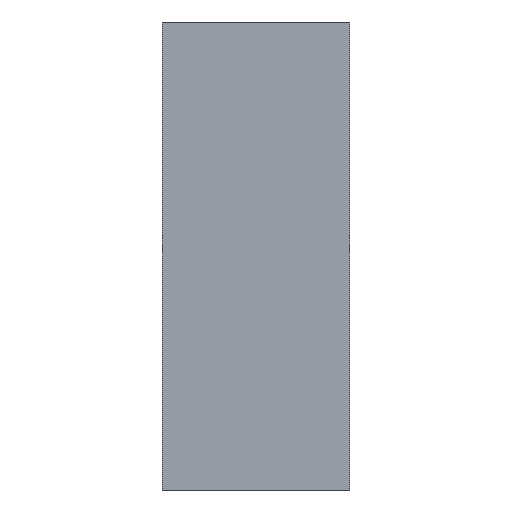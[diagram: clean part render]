
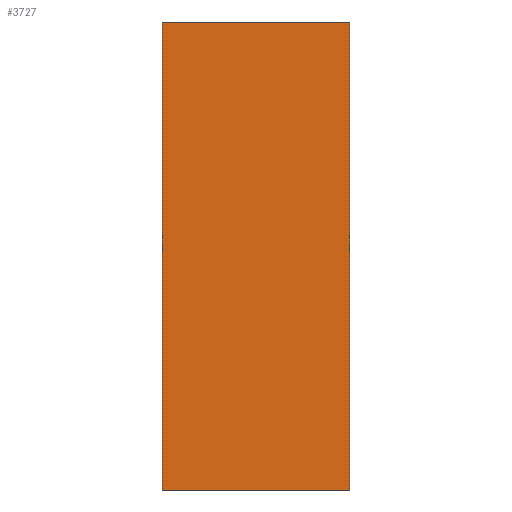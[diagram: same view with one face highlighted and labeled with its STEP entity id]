
A CAD part, left-side view. The second image highlights one B-rep face of the part: STEP entity #3727.
In plain terms, the highlighted planar face has unit normal (-1, 0, 0).
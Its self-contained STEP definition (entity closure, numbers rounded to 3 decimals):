
#448 = DIRECTION ( 'NONE',  ( 0., -1., 0. ) ) ;
#469 = DIRECTION ( 'NONE',  ( 0., 0., 1. ) ) ;
#508 = CARTESIAN_POINT ( 'NONE',  ( -40., -10., -50. ) ) ;
#545 = EDGE_CURVE ( 'NONE', #743, #3840, #904, .T. ) ;
#608 = VECTOR ( 'NONE', #469, 1000. ) ;
#742 = FACE_OUTER_BOUND ( 'NONE', #2347, .T. ) ;
#743 = VERTEX_POINT ( 'NONE', #1219 ) ;
#759 = DIRECTION ( 'NONE',  ( -1., 0., 0. ) ) ;
#810 = DIRECTION ( 'NONE',  ( 0., 0., 1. ) ) ;
#904 = LINE ( 'NONE', #3787, #1710 ) ;
#1038 = EDGE_CURVE ( 'NONE', #3840, #3017, #3023, .T. ) ;
#1080 = CARTESIAN_POINT ( 'NONE',  ( -40., 10., -50. ) ) ;
#1092 = CARTESIAN_POINT ( 'NONE',  ( -40., 10., -50. ) ) ;
#1118 = EDGE_CURVE ( 'NONE', #743, #1184, #2744, .T. ) ;
#1184 = VERTEX_POINT ( 'NONE', #3001 ) ;
#1219 = CARTESIAN_POINT ( 'NONE',  ( -40., 10., -50. ) ) ;
#1308 = ORIENTED_EDGE ( 'NONE', *, *, #545, .T. ) ;
#1342 = PLANE ( 'NONE',  #2146 ) ;
#1386 = DIRECTION ( 'NONE',  ( 0., 0., 1. ) ) ;
#1489 = EDGE_CURVE ( 'NONE', #1184, #3017, #3270, .T. ) ;
#1710 = VECTOR ( 'NONE', #3132, 1000. ) ;
#1774 = ORIENTED_EDGE ( 'NONE', *, *, #1489, .F. ) ;
#1939 = VECTOR ( 'NONE', #448, 1000. ) ;
#2146 = AXIS2_PLACEMENT_3D ( 'NONE', #1080, #759, #1386 ) ;
#2255 = ORIENTED_EDGE ( 'NONE', *, *, #1038, .T. ) ;
#2306 = VECTOR ( 'NONE', #810, 1000. ) ;
#2347 = EDGE_LOOP ( 'NONE', ( #1774, #3219, #1308, #2255 ) ) ;
#2642 = CARTESIAN_POINT ( 'NONE',  ( -40., -10., -50. ) ) ;
#2744 = LINE ( 'NONE', #1092, #608 ) ;
#2885 = CARTESIAN_POINT ( 'NONE',  ( -40., 10., 0. ) ) ;
#3001 = CARTESIAN_POINT ( 'NONE',  ( -40., 10., 0. ) ) ;
#3017 = VERTEX_POINT ( 'NONE', #3102 ) ;
#3023 = LINE ( 'NONE', #508, #2306 ) ;
#3102 = CARTESIAN_POINT ( 'NONE',  ( -40., -10., 0. ) ) ;
#3132 = DIRECTION ( 'NONE',  ( 0., -1., 0. ) ) ;
#3219 = ORIENTED_EDGE ( 'NONE', *, *, #1118, .F. ) ;
#3270 = LINE ( 'NONE', #2885, #1939 ) ;
#3727 = ADVANCED_FACE ( 'NONE', ( #742 ), #1342, .T. ) ;
#3787 = CARTESIAN_POINT ( 'NONE',  ( -40., 10., -50. ) ) ;
#3840 = VERTEX_POINT ( 'NONE', #2642 ) ;
